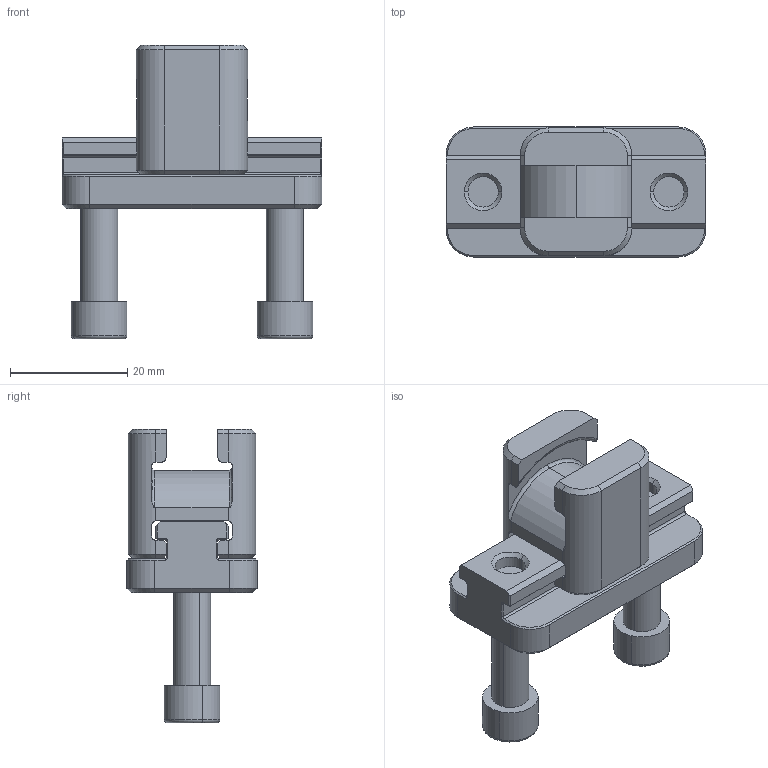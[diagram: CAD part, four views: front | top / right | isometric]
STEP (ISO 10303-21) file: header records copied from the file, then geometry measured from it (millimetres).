
FILE_DESCRIPTION (( 'STEP AP203' ), '1' );
FILE_NAME ('UCU87-TGU100.STEP', '2013-06-11T18:01:14', ( '' ), ( '' ), 'SwSTEP 2.0', 'SolidWorks 2011', '' );
FILE_SCHEMA (( 'CONFIG_CONTROL_DESIGN' ));
Length unit declared in the file: inch
Products named in the file (4): UCU87-TGU100; 250_SHCS; TGU100; UCU87
Assembly tree (4 placements, depth 2):
  UCU87-TGU100
    250_SHCS  x2
    TGU100
    UCU87
Bounding box: 44.42 x 22.23 x 50.14 mm (x, y, z)
Volume: 15675 mm3; surface area: 8501.7 mm2
Topology: 4 solids, 4 shells, 198 faces, 471 edges, 285 vertices
Faces by surface type: plane 119, cylinder 34, cone 32, torus 13
Entity records: 5557 total; most frequent: CARTESIAN_POINT 1033, DIRECTION 861, ORIENTED_EDGE 842, EDGE_CURVE 421, LINE 287, VECTOR 287, AXIS2_PLACEMENT_3D 287, VERTEX_POINT 255
